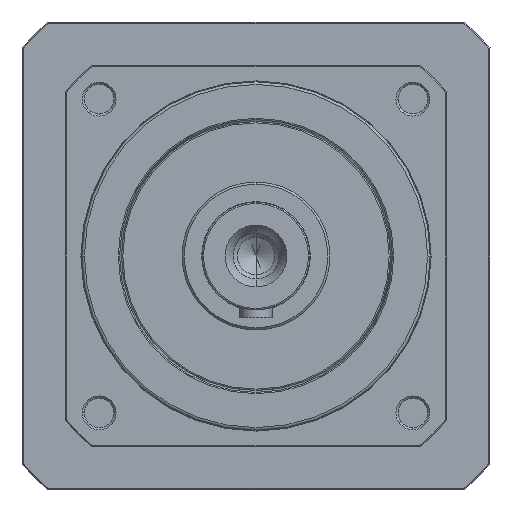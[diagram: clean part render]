
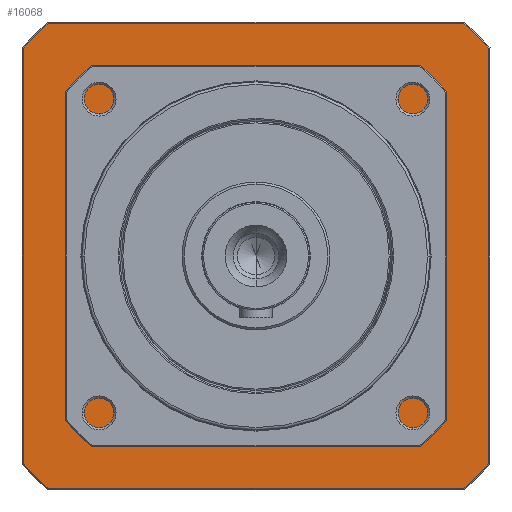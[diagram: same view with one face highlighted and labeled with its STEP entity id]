
A CAD part, left-side view. The second image highlights one B-rep face of the part: STEP entity #16068.
In plain terms, the highlighted planar face has unit normal (-1, 0, 0) as drawn and (0, 0, -1) by its records, which use the part's own axes.
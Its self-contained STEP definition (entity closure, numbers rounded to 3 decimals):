
#14954=CARTESIAN_POINT('',(0.,0.,
2.5));
#14955=DIRECTION('',(0.,0.,-1.));
#14956=DIRECTION('',(0.,-1.,0.));
#14957=AXIS2_PLACEMENT_3D('',#14954,#14955,#14956);
#14959=CARTESIAN_POINT('',(0.,0.,
2.5));
#14960=DIRECTION('',(0.,0.,-1.));
#14961=DIRECTION('',(0.,1.,0.));
#14962=AXIS2_PLACEMENT_3D('',#14959,#14960,#14961);
#14964=CARTESIAN_POINT('',(0.,0.,2.5));
#14965=DIRECTION('',(0.,0.,1.));
#14966=DIRECTION('',(-0.746,-0.666,0.));
#14967=AXIS2_PLACEMENT_3D('',#14964,#14965,#14966);
#14969=DIRECTION('',(1.,0.,0.));
#14970=VECTOR('',#14969,154.58);
#14971=CARTESIAN_POINT('',(-77.29,-86.5,
2.5));
#14972=LINE('',#14971,#14970);
#14973=CARTESIAN_POINT('',(0.,0.,2.5));
#14974=DIRECTION('',(0.,0.,1.));
#14975=DIRECTION('',(0.666,-0.746,0.));
#14976=AXIS2_PLACEMENT_3D('',#14973,#14974,#14975);
#14978=DIRECTION('',(0.,1.,0.));
#14979=VECTOR('',#14978,154.58);
#14980=CARTESIAN_POINT('',(86.5,-77.29,
2.5));
#14981=LINE('',#14980,#14979);
#14982=CARTESIAN_POINT('',(0.,0.,2.5));
#14983=DIRECTION('',(0.,0.,1.));
#14984=DIRECTION('',(0.746,0.666,0.));
#14985=AXIS2_PLACEMENT_3D('',#14982,#14983,#14984);
#14987=DIRECTION('',(-1.,0.,0.));
#14988=VECTOR('',#14987,154.58);
#14989=CARTESIAN_POINT('',(77.29,86.5,2.5));
#14990=LINE('',#14989,#14988);
#14991=CARTESIAN_POINT('',(0.,0.,2.5));
#14992=DIRECTION('',(0.,0.,1.));
#14993=DIRECTION('',(-0.666,0.746,0.));
#14994=AXIS2_PLACEMENT_3D('',#14991,#14992,#14993);
#14996=DIRECTION('',(0.,-1.,0.));
#14997=VECTOR('',#14996,154.58);
#14998=CARTESIAN_POINT('',(-86.5,77.29,
2.5));
#14999=LINE('',#14998,#14997);
#15717=CARTESIAN_POINT('',(0.,-69.5,2.5));
#15718=CARTESIAN_POINT('',(0.,69.5,
2.5));
#15719=VERTEX_POINT('',#15717);
#15720=VERTEX_POINT('',#15718);
#15821=CARTESIAN_POINT('',(-86.5,-77.29,2.5));
#15822=CARTESIAN_POINT('',(-77.29,-86.5,2.5));
#15823=VERTEX_POINT('',#15821);
#15824=VERTEX_POINT('',#15822);
#15829=CARTESIAN_POINT('',(77.29,-86.5,
2.5));
#15830=VERTEX_POINT('',#15829);
#15833=CARTESIAN_POINT('',(86.5,-77.29,2.5));
#15834=VERTEX_POINT('',#15833);
#15837=CARTESIAN_POINT('',(86.5,77.29,2.5));
#15838=VERTEX_POINT('',#15837);
#15841=CARTESIAN_POINT('',(77.29,86.5,2.5));
#15842=VERTEX_POINT('',#15841);
#15845=CARTESIAN_POINT('',(-77.29,86.5,
2.5));
#15846=VERTEX_POINT('',#15845);
#15851=CARTESIAN_POINT('',(-86.5,77.29,2.5));
#15852=VERTEX_POINT('',#15851);
#16040=CARTESIAN_POINT('',(0.,0.,2.5));
#16041=DIRECTION('',(0.,0.,1.));
#16042=DIRECTION('',(0.,1.,0.));
#16043=AXIS2_PLACEMENT_3D('',#16040,#16041,#16042);
#16044=PLANE('',#16043);
#16046=ORIENTED_EDGE('',*,*,#16045,.T.);
#16048=ORIENTED_EDGE('',*,*,#16047,.T.);
#16050=ORIENTED_EDGE('',*,*,#16049,.T.);
#16052=ORIENTED_EDGE('',*,*,#16051,.T.);
#16054=ORIENTED_EDGE('',*,*,#16053,.T.);
#16056=ORIENTED_EDGE('',*,*,#16055,.T.);
#16058=ORIENTED_EDGE('',*,*,#16057,.T.);
#16060=ORIENTED_EDGE('',*,*,#16059,.T.);
#16061=EDGE_LOOP('',(#16046,#16048,#16050,#16052,#16054,#16056,#16058,#16060));
#16062=FACE_OUTER_BOUND('',#16061,.F.);
#16064=ORIENTED_EDGE('',*,*,#16063,.T.);
#16065=ORIENTED_EDGE('',*,*,#16030,.T.);
#16066=EDGE_LOOP('',(#16064,#16065));
#16067=FACE_BOUND('',#16066,.F.);
#16068=ADVANCED_FACE('',(#16062,#16067),#16044,.F.);
#14958=CIRCLE('',#14957,69.5);
#14963=CIRCLE('',#14962,69.5);
#14968=CIRCLE('',#14967,116.);
#14977=CIRCLE('',#14976,116.);
#14986=CIRCLE('',#14985,116.);
#14995=CIRCLE('',#14994,116.);
#16030=EDGE_CURVE('',#15720,#15719,#14963,.T.);
#16045=EDGE_CURVE('',#15823,#15824,#14968,.T.);
#16047=EDGE_CURVE('',#15824,#15830,#14972,.T.);
#16049=EDGE_CURVE('',#15830,#15834,#14977,.T.);
#16051=EDGE_CURVE('',#15834,#15838,#14981,.T.);
#16053=EDGE_CURVE('',#15838,#15842,#14986,.T.);
#16055=EDGE_CURVE('',#15842,#15846,#14990,.T.);
#16057=EDGE_CURVE('',#15846,#15852,#14995,.T.);
#16059=EDGE_CURVE('',#15852,#15823,#14999,.T.);
#16063=EDGE_CURVE('',#15719,#15720,#14958,.T.);
